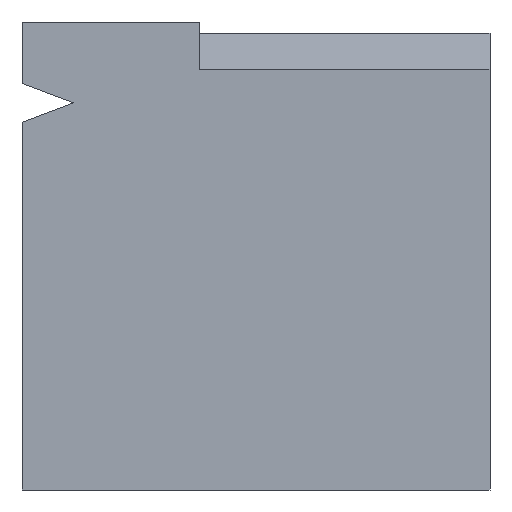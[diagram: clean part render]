
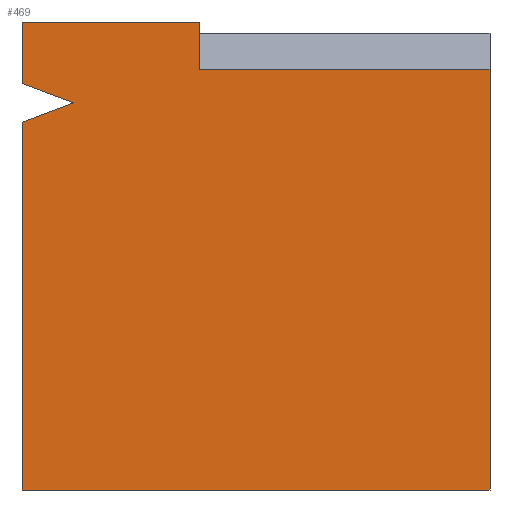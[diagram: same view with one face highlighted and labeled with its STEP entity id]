
A CAD part, front view. The second image highlights one B-rep face of the part: STEP entity #469.
In plain terms, the highlighted planar face has unit normal (0, -1, 0).
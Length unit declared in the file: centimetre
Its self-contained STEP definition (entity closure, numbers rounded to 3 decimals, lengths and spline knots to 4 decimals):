
#7 = EDGE_CURVE ( 'NONE', #45, #431, #239, .T. ) ;
#45 = VERTEX_POINT ( 'NONE', #681 ) ;
#71 = EDGE_CURVE ( 'NONE', #479, #1093, #280, .T. ) ;
#78 = CARTESIAN_POINT ( 'NONE',  ( 379.8023, 0., 898.9388 ) ) ;
#82 = DIRECTION ( 'NONE',  ( 0., 0., -1. ) ) ;
#115 = ORIENTED_EDGE ( 'NONE', *, *, #798, .F. ) ;
#136 = FACE_OUTER_BOUND ( 'NONE', #808, .T. ) ;
#145 = VECTOR ( 'NONE', #215, 100. ) ;
#148 = VERTEX_POINT ( 'NONE', #633 ) ;
#158 = ORIENTED_EDGE ( 'NONE', *, *, #563, .F. ) ;
#173 = LINE ( 'NONE', #532, #257 ) ;
#201 = VECTOR ( 'NONE', #1143, 100. ) ;
#203 = CARTESIAN_POINT ( 'NONE',  ( 0., 0., 785.9373 ) ) ;
#215 = DIRECTION ( 'NONE',  ( 1., 0., 0. ) ) ;
#224 = EDGE_CURVE ( 'NONE', #431, #233, #296, .T. ) ;
#233 = VERTEX_POINT ( 'NONE', #841 ) ;
#239 = LINE ( 'NONE', #78, #201 ) ;
#257 = VECTOR ( 'NONE', #888, 100. ) ;
#274 = VECTOR ( 'NONE', #818, 100. ) ;
#280 = LINE ( 'NONE', #1075, #274 ) ;
#296 = LINE ( 'NONE', #652, #914 ) ;
#298 = VERTEX_POINT ( 'NONE', #203 ) ;
#343 = DIRECTION ( 'NONE',  ( 0., 0., -1. ) ) ;
#376 = DIRECTION ( 'NONE',  ( 1., 0., 0. ) ) ;
#384 = VECTOR ( 'NONE', #343, 100. ) ;
#407 = CARTESIAN_POINT ( 'NONE',  ( 0., 0., 1000. ) ) ;
#429 = DIRECTION ( 'NONE',  ( 1., 0., 0. ) ) ;
#431 = VERTEX_POINT ( 'NONE', #939 ) ;
#469 = ADVANCED_FACE ( 'NONE', ( #136 ), #494, .F. ) ;
#479 = VERTEX_POINT ( 'NONE', #502 ) ;
#493 = LINE ( 'NONE', #944, #145 ) ;
#494 = PLANE ( 'NONE',  #777 ) ;
#501 = VECTOR ( 'NONE', #82, 100. ) ;
#502 = CARTESIAN_POINT ( 'NONE',  ( 0., 0., 868.5024 ) ) ;
#516 = VERTEX_POINT ( 'NONE', #899 ) ;
#527 = LINE ( 'NONE', #883, #501 ) ;
#532 = CARTESIAN_POINT ( 'NONE',  ( 0., 0., 785.9373 ) ) ;
#553 = ORIENTED_EDGE ( 'NONE', *, *, #7, .F. ) ;
#563 = EDGE_CURVE ( 'NONE', #233, #1048, #699, .T. ) ;
#574 = VECTOR ( 'NONE', #429, 100. ) ;
#575 = ORIENTED_EDGE ( 'NONE', *, *, #589, .T. ) ;
#585 = ORIENTED_EDGE ( 'NONE', *, *, #71, .T. ) ;
#589 = EDGE_CURVE ( 'NONE', #298, #148, #527, .T. ) ;
#619 = LINE ( 'NONE', #974, #574 ) ;
#633 = CARTESIAN_POINT ( 'NONE',  ( 0., 0., 0. ) ) ;
#652 = CARTESIAN_POINT ( 'NONE',  ( 379.8023, 0., 898.9388 ) ) ;
#681 = CARTESIAN_POINT ( 'NONE',  ( 379.8023, 0., 1000. ) ) ;
#690 = EDGE_CURVE ( 'NONE', #148, #1048, #493, .T. ) ;
#699 = LINE ( 'NONE', #987, #930 ) ;
#716 = DIRECTION ( 'NONE',  ( 0., 0., -1. ) ) ;
#731 = CARTESIAN_POINT ( 'NONE',  ( 1000., 0., 0. ) ) ;
#763 = DIRECTION ( 'NONE',  ( 0., 0., 1. ) ) ;
#777 = AXIS2_PLACEMENT_3D ( 'NONE', #407, #1032, #763 ) ;
#798 = EDGE_CURVE ( 'NONE', #516, #45, #619, .T. ) ;
#805 = EDGE_CURVE ( 'NONE', #1093, #298, #173, .T. ) ;
#808 = EDGE_LOOP ( 'NONE', ( #585, #862, #575, #1126, #158, #925, #553, #115, #821 ) ) ;
#818 = DIRECTION ( 'NONE',  ( 0.936, 0., -0.352 ) ) ;
#821 = ORIENTED_EDGE ( 'NONE', *, *, #886, .T. ) ;
#841 = CARTESIAN_POINT ( 'NONE',  ( 1000., 0., 898.9388 ) ) ;
#862 = ORIENTED_EDGE ( 'NONE', *, *, #805, .T. ) ;
#883 = CARTESIAN_POINT ( 'NONE',  ( 0., 0., 1000. ) ) ;
#886 = EDGE_CURVE ( 'NONE', #516, #479, #1043, .T. ) ;
#888 = DIRECTION ( 'NONE',  ( -0.936, 0., -0.352 ) ) ;
#899 = CARTESIAN_POINT ( 'NONE',  ( 0., 0., 1000. ) ) ;
#914 = VECTOR ( 'NONE', #376, 100. ) ;
#925 = ORIENTED_EDGE ( 'NONE', *, *, #224, .F. ) ;
#930 = VECTOR ( 'NONE', #716, 100. ) ;
#939 = CARTESIAN_POINT ( 'NONE',  ( 379.8023, 0., 898.9388 ) ) ;
#944 = CARTESIAN_POINT ( 'NONE',  ( 0., 0., 0. ) ) ;
#974 = CARTESIAN_POINT ( 'NONE',  ( 0., 0., 1000. ) ) ;
#987 = CARTESIAN_POINT ( 'NONE',  ( 1000., 0., 1000. ) ) ;
#1030 = CARTESIAN_POINT ( 'NONE',  ( 109.9241, 0., 827.2198 ) ) ;
#1032 = DIRECTION ( 'NONE',  ( 0., 1., 0. ) ) ;
#1043 = LINE ( 'NONE', #1146, #384 ) ;
#1048 = VERTEX_POINT ( 'NONE', #731 ) ;
#1075 = CARTESIAN_POINT ( 'NONE',  ( 109.9241, 0., 827.2198 ) ) ;
#1093 = VERTEX_POINT ( 'NONE', #1030 ) ;
#1126 = ORIENTED_EDGE ( 'NONE', *, *, #690, .T. ) ;
#1143 = DIRECTION ( 'NONE',  ( 0., 0., -1. ) ) ;
#1146 = CARTESIAN_POINT ( 'NONE',  ( 0., 0., 1000. ) ) ;
